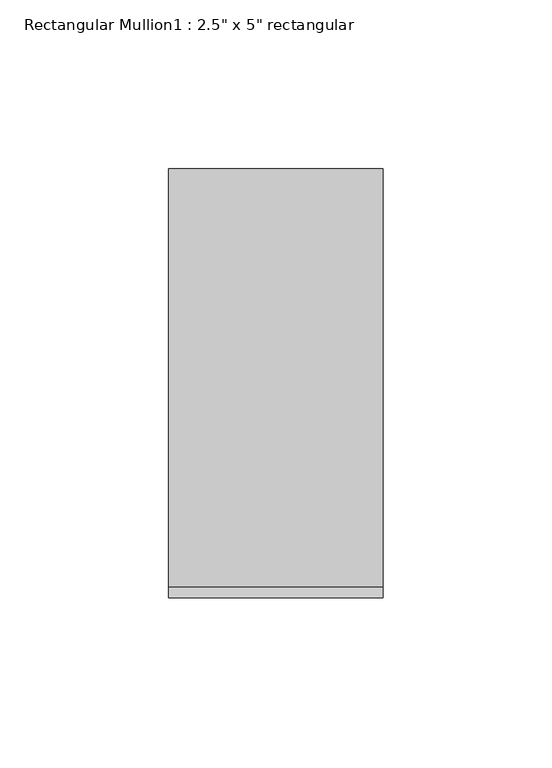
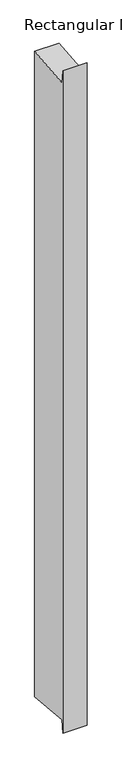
"""IFC4 building model written with IfcOpenShell, lengths in millimetres: member geometry."""

import ifcopenshell
import ifcopenshell.guid

model = None  # the IFC model being written
_history = None  # IfcOwnerHistory: only IFC2X3 demands one
_inside = {}  # id of a spatial element -> (the spatial element, [elements in it])
_under = {}  # id of a project, library or spatial element -> (it, [spatial elements below it])
_declared = {}  # id of a project -> (the project, [libraries it declares])
_typed = {}  # id of a type object -> (the type object, [elements of that type])
_made_of = {}  # id of a material, layer set ... -> (it, [elements and type objects made of it])


def new_model(schema):
    """Start an empty IFC model of exactly this schema.

    Asked for "IFC4X3", IfcOpenShell would pick the latest addendum, in which some entities
    have other attributes; the version numbers below select the first issue.
    IFC2X3 requires an IfcOwnerHistory on every rooted entity: one is made here for all.
    """
    global model, _history
    if schema == "IFC4X3":
        model = ifcopenshell.file(schema_version=(4, 3, 0, 0))
    else:
        model = ifcopenshell.file(schema=schema)
    _inside.clear()
    _under.clear()
    _declared.clear()
    _typed.clear()
    _made_of.clear()
    _history = None
    if model.schema == "IFC2X3":
        org = make("IfcOrganization", Name="unknown")
        user = make(
            "IfcPersonAndOrganization",
            ThePerson=make("IfcPerson", FamilyName="unknown"),
            TheOrganization=org,
        )
        app = make(
            "IfcApplication",
            ApplicationDeveloper=org,
            Version="unknown",
            ApplicationFullName="unknown",
            ApplicationIdentifier="unknown",
        )
        _history = make(
            "IfcOwnerHistory",
            OwningUser=user,
            OwningApplication=app,
            ChangeAction="ADDED",
            CreationDate=0,
        )
    return model


def make(cls, **values):
    """One entity of the class cls with the attributes given. An attribute that is None is left unset."""
    return model.create_entity(
        cls, **{name: value for name, value in values.items() if value is not None}
    )


def rooted(cls, **values):
    """An entity with a GlobalId (a new one), such as an element, a storey or a relation."""
    return make(cls, GlobalId=ifcopenshell.guid.new(), OwnerHistory=_history, **values)


def si_unit(unit_type, name, prefix=None):
    """IfcSIUnit, for example si_unit("LENGTHUNIT", "METRE", prefix="MILLI")."""
    return make("IfcSIUnit", UnitType=unit_type, Prefix=prefix, Name=name)


def assignment(units):
    """IfcUnitAssignment: the units of a project."""
    return None if units is None else make("IfcUnitAssignment", Units=units)


def point(xyz):
    """IfcCartesianPoint."""
    return None if xyz is None else make("IfcCartesianPoint", Coordinates=xyz)


def direction(xyz):
    """IfcDirection."""
    return None if xyz is None else make("IfcDirection", DirectionRatios=xyz)


def frame(location, z_axis=None, x_axis=None):
    """IfcAxis2Placement3D, a coordinate frame: its origin and axes. An axis left out is left unset."""
    return make(
        "IfcAxis2Placement3D",
        Location=point(location),
        Axis=direction(z_axis),
        RefDirection=direction(x_axis),
    )


def origin():
    """The frame at (0, 0, 0) with its axes left unset."""
    return frame((0.0, 0.0, 0.0))


def place(relative_to, where):
    """IfcLocalPlacement: puts the frame where relative to a parent placement (None: the world)."""
    return make(
        "IfcLocalPlacement", PlacementRelTo=relative_to, RelativePlacement=where
    )


def context(
    kind, dimensions, precision=None, world=None, true_north=None, identifier=None
):
    """IfcGeometricRepresentationContext, for example the 3D "Model" context."""
    return make(
        "IfcGeometricRepresentationContext",
        ContextIdentifier=identifier,
        ContextType=kind,
        CoordinateSpaceDimension=dimensions,
        Precision=precision,
        WorldCoordinateSystem=world,
        TrueNorth=true_north,
    )


def project(units=None, contexts=None):
    """IfcProject with its units and contexts."""
    return rooted(
        "IfcProject",
        Name="project",
        RepresentationContexts=contexts,
        UnitsInContext=assignment(units),
    )


def spatial(cls, under=None, at=None, **own):
    """A site, building, storey or space (cls), placed at a placement, below another one or the project."""
    s = rooted(cls, ObjectPlacement=at, **own)
    if under is not None:
        _under.setdefault(under.id(), (under, []))[1].append(s)
    return s


def polyline(points):
    """IfcPolyline through the points."""
    return make("IfcPolyline", Points=[point(p) for p in points])


def outline(outer, holes=None, kind="AREA"):
    """IfcArbitraryClosedProfileDef: a profile drawn as a closed curve; with holes, ...WithVoids."""
    if holes is None:
        return make("IfcArbitraryClosedProfileDef", ProfileType=kind, OuterCurve=outer)
    return make(
        "IfcArbitraryProfileDefWithVoids",
        ProfileType=kind,
        OuterCurve=outer,
        InnerCurves=holes,
    )


def extrude(swept, where, along, depth):
    """IfcExtrudedAreaSolid: the profile swept, set in the frame where, extruded along a direction by depth."""
    return make(
        "IfcExtrudedAreaSolid",
        SweptArea=swept,
        Position=where,
        ExtrudedDirection=direction(along),
        Depth=depth,
    )


def shape(context_of_items, identifier, shape_type, items):
    """IfcShapeRepresentation: the items that make up one representation, for example the "Body"."""
    return make(
        "IfcShapeRepresentation",
        ContextOfItems=context_of_items,
        RepresentationIdentifier=identifier,
        RepresentationType=shape_type,
        Items=items,
    )


def source(mapping_origin, context_of_items, identifier, shape_type, items):
    """IfcRepresentationMap: a shape defined once, which mapped items show again and again."""
    return make(
        "IfcRepresentationMap",
        MappingOrigin=mapping_origin,
        MappedRepresentation=shape(context_of_items, identifier, shape_type, items),
    )


def transform(
    local_origin,
    x_axis=None,
    y_axis=None,
    z_axis=None,
    scale=None,
    scale2=None,
    scale3=None,
    uniform=True,
):
    """IfcCartesianTransformationOperator3D, or its non-uniform kind. x_axis, y_axis, z_axis: its Axis1, 2, 3."""
    if uniform:
        return make(
            "IfcCartesianTransformationOperator3D",
            Axis1=direction(x_axis),
            Axis2=direction(y_axis),
            LocalOrigin=point(local_origin),
            Scale=scale,
            Axis3=direction(z_axis),
        )
    return make(
        "IfcCartesianTransformationOperator3DnonUniform",
        Axis1=direction(x_axis),
        Axis2=direction(y_axis),
        LocalOrigin=point(local_origin),
        Scale=scale,
        Axis3=direction(z_axis),
        Scale2=scale2,
        Scale3=scale3,
    )


def mapped(mapping_source, mapping_target):
    """IfcMappedItem: shows the shape of a source again, moved by a transform."""
    return make(
        "IfcMappedItem", MappingSource=mapping_source, MappingTarget=mapping_target
    )


def made_of(thing, what):
    """Note that an element or type object is made of a material, layer set ...; save() writes the relation."""
    if what is not None:
        _made_of.setdefault(what.id(), (what, []))[1].append(thing)
    return thing


def element(
    cls,
    number,
    at=None,
    inside=None,
    cuts=None,
    type_object=None,
    material=None,
    context=None,
    identifier="Body",
    shape_type=None,
    held_by="IfcProductDefinitionShape",
    body=None,
    shapes=None,
    **own,
):
    """One element of the class cls, such as IfcWall. Its Tag is "e" and its number.

    at: its placement. inside: the storey or other place that contains it. cuts: it is an
    opening in that element (IfcRelVoidsElement). A single representation is given by context,
    identifier, shape_type and body (its items); several are given by shapes. held_by: the class
    of the entity that holds the representations. save() writes the other relations.
    """
    e = rooted(cls, Tag="e%d" % number, ObjectPlacement=at, **own)
    if body is not None:
        shapes = [shape(context, identifier, shape_type, body)]
    if shapes is not None:
        e.Representation = make(held_by, Representations=shapes)
    if inside is not None:
        _inside.setdefault(inside.id(), (inside, []))[1].append(e)
    if cuts is not None:
        rooted(
            "IfcRelVoidsElement", RelatingBuildingElement=cuts, RelatedOpeningElement=e
        )
    if type_object is not None:
        _typed.setdefault(type_object.id(), (type_object, []))[1].append(e)
    return made_of(e, material)


def aggregate(whole, parts):
    """IfcRelAggregates: a whole, such as a stair, and the parts it consists of."""
    return rooted("IfcRelAggregates", RelatingObject=whole, RelatedObjects=parts)


def save(model, path):
    """Write the relations noted so far, then the file.

    IfcRelAggregates (storeys below a building ...), IfcRelContainedInSpatialStructure (elements
    in a storey), IfcRelDefinesByType, IfcRelAssociatesMaterial and IfcRelDeclares: one each for
    every whole, place, type object, material and project.
    """
    for whole, parts in _under.values():
        aggregate(whole, parts)
    for where, things in _inside.values():
        rooted(
            "IfcRelContainedInSpatialStructure",
            RelatedElements=things,
            RelatingStructure=where,
        )
    for kind, things in _typed.values():
        rooted("IfcRelDefinesByType", RelatedObjects=things, RelatingType=kind)
    for what, things in _made_of.values():
        rooted("IfcRelAssociatesMaterial", RelatedObjects=things, RelatingMaterial=what)
    for by, libraries in _declared.values():
        rooted("IfcRelDeclares", RelatingContext=by, RelatedDefinitions=libraries)
    model.write(path)


def member_b9454cfc(model_context):
    return source(origin(), model_context, "Body", "SweptSolid", [
        extrude(outline(polyline([(-63.5, 28.7582862), (-60.2336356, -5.8295375), (63.5, 5.8554746), (63.5, -1771.1554746), (-60.2336356, -1759.4704625), (-63.5, -1794.0582862), (-63.5, 28.7582862)])), frame((-63.5, 0.0, 0.0), z_axis=(1.0, 0.0, 0.0), x_axis=(0.0, 1.0, 0.0)), (0.0, 0.0, 1.0), 63.5),
    ])


if __name__ == "__main__":
    model = new_model("IFC4")
    model_context = context("Model", 3, world=origin())
    ifc_project = project(units=[si_unit("LENGTHUNIT", "METRE", prefix="MILLI")], contexts=[model_context])
    site = spatial("IfcSite", under=ifc_project)
    building = spatial("IfcBuilding", under=site)
    placement = place(None, origin())
    member_shape = member_b9454cfc(model_context)
    element("IfcMember", 1, ObjectType="Rectangular Mullion1 : 2.5\" x 5\" rectangular", at=placement, inside=building, context=model_context, shape_type="MappedRepresentation", body=[
        mapped(member_shape, transform((0.0, 0.0, 0.0), x_axis=(1.0, 0.0, 0.0), y_axis=(0.0, 1.0, 0.0), z_axis=(0.0, 0.0, 1.0))),
    ])
    save(model, "model.ifc")
